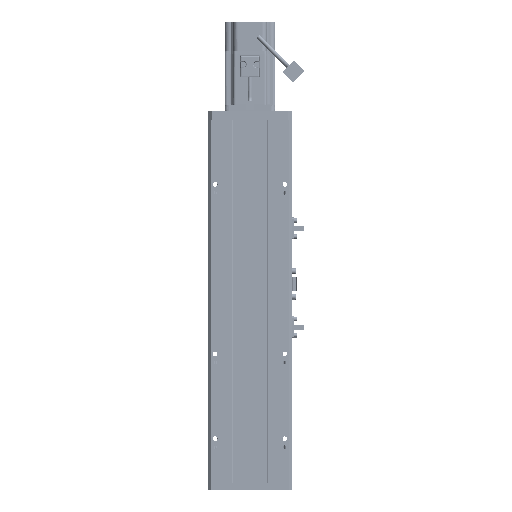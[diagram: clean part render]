
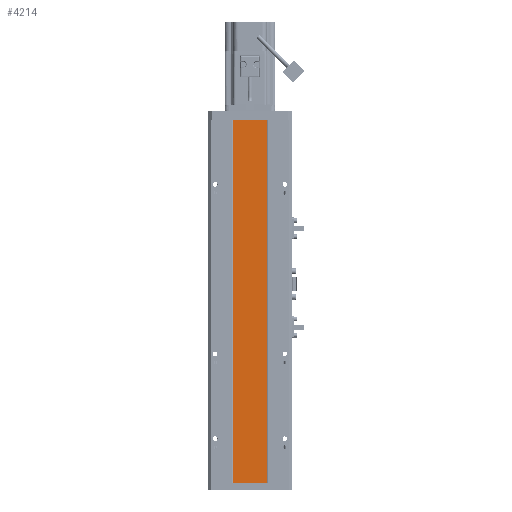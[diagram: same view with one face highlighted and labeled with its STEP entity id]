
A CAD part, front view. The second image highlights one B-rep face of the part: STEP entity #4214.
In plain terms, the highlighted planar face has unit normal (0, -1, 0).
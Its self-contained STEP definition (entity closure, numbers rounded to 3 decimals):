
#4214 = ADVANCED_FACE ( 'NONE', ( #7737 ), #67691, .F. ) ;
#4915 = CARTESIAN_POINT ( 'NONE',  ( 20., 0., -428.5 ) ) ;
#7520 = VERTEX_POINT ( 'NONE', #46620 ) ;
#7737 = FACE_OUTER_BOUND ( 'NONE', #65538, .T. ) ;
#7762 = ORIENTED_EDGE ( 'NONE', *, *, #33015, .T. ) ;
#9891 = ORIENTED_EDGE ( 'NONE', *, *, #33129, .F. ) ;
#12197 = ORIENTED_EDGE ( 'NONE', *, *, #33385, .F. ) ;
#13138 = DIRECTION ( 'NONE',  ( -1., 0., 0. ) ) ;
#14289 = ORIENTED_EDGE ( 'NONE', *, *, #32989, .T. ) ;
#15180 = AXIS2_PLACEMENT_3D ( 'NONE', #4915, #78501, #75226 ) ;
#19350 = CARTESIAN_POINT ( 'NONE',  ( -20., 0., -428.5 ) ) ;
#30142 = CARTESIAN_POINT ( 'NONE',  ( -20., 0., 0. ) ) ;
#30587 = VERTEX_POINT ( 'NONE', #30142 ) ;
#32989 = EDGE_CURVE ( 'NONE', #35252, #7520, #73150, .T. ) ;
#33015 = EDGE_CURVE ( 'NONE', #7520, #30587, #73563, .T. ) ;
#33129 = EDGE_CURVE ( 'NONE', #38328, #30587, #72656, .T. ) ;
#33385 = EDGE_CURVE ( 'NONE', #35252, #38328, #69130, .T. ) ;
#35252 = VERTEX_POINT ( 'NONE', #55443 ) ;
#38328 = VERTEX_POINT ( 'NONE', #19350 ) ;
#46620 = CARTESIAN_POINT ( 'NONE',  ( 20., 0., 0. ) ) ;
#50453 = CARTESIAN_POINT ( 'NONE',  ( -20., 0., -428.5 ) ) ;
#55443 = CARTESIAN_POINT ( 'NONE',  ( 20., 0., -428.5 ) ) ;
#57354 = DIRECTION ( 'NONE',  ( 0., 0., 1. ) ) ;
#62409 = DIRECTION ( 'NONE',  ( 0., 0., 1. ) ) ;
#65538 = EDGE_LOOP ( 'NONE', ( #7762, #9891, #12197, #14289 ) ) ;
#67691 = PLANE ( 'NONE',  #15180 ) ;
#68652 = VECTOR ( 'NONE', #13138, 1000. ) ;
#69130 = LINE ( 'NONE', #87690, #68652 ) ;
#69322 = CARTESIAN_POINT ( 'NONE',  ( 20., 0., 0. ) ) ;
#71805 = VECTOR ( 'NONE', #57354, 1000. ) ;
#72656 = LINE ( 'NONE', #50453, #71805 ) ;
#73062 = VECTOR ( 'NONE', #75961, 1000. ) ;
#73150 = LINE ( 'NONE', #75653, #73377 ) ;
#73377 = VECTOR ( 'NONE', #62409, 1000. ) ;
#73563 = LINE ( 'NONE', #69322, #73062 ) ;
#75226 = DIRECTION ( 'NONE',  ( -1., 0., 0. ) ) ;
#75653 = CARTESIAN_POINT ( 'NONE',  ( 20., 0., -428.5 ) ) ;
#75961 = DIRECTION ( 'NONE',  ( -1., 0., 0. ) ) ;
#78501 = DIRECTION ( 'NONE',  ( 0., 1., 0. ) ) ;
#87690 = CARTESIAN_POINT ( 'NONE',  ( 20., 0., -428.5 ) ) ;
